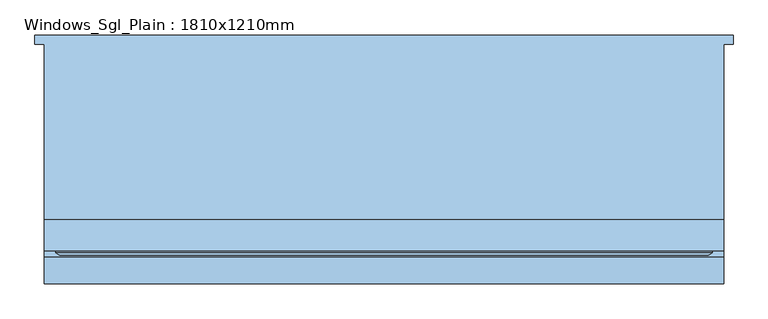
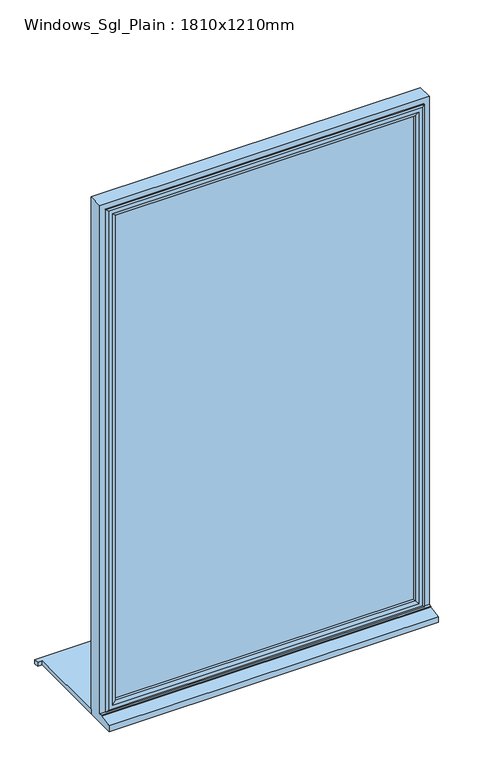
"""IFC4 building model written with IfcOpenShell, lengths in millimetres: window geometry, Windows_Sgl_Plain : 1810x1210mm."""

import ifcopenshell
import ifcopenshell.guid

model = None  # the IFC model being written
_history = None  # IfcOwnerHistory: only IFC2X3 demands one
_inside = {}  # id of a spatial element -> (the spatial element, [elements in it])
_under = {}  # id of a project, library or spatial element -> (it, [spatial elements below it])
_declared = {}  # id of a project -> (the project, [libraries it declares])
_typed = {}  # id of a type object -> (the type object, [elements of that type])
_made_of = {}  # id of a material, layer set ... -> (it, [elements and type objects made of it])


def new_model(schema):
    """Start an empty IFC model of exactly this schema.

    Asked for "IFC4X3", IfcOpenShell would pick the latest addendum, in which some entities
    have other attributes; the version numbers below select the first issue.
    IFC2X3 requires an IfcOwnerHistory on every rooted entity: one is made here for all.
    """
    global model, _history
    if schema == "IFC4X3":
        model = ifcopenshell.file(schema_version=(4, 3, 0, 0))
    else:
        model = ifcopenshell.file(schema=schema)
    _inside.clear()
    _under.clear()
    _declared.clear()
    _typed.clear()
    _made_of.clear()
    _history = None
    if model.schema == "IFC2X3":
        org = make("IfcOrganization", Name="unknown")
        user = make(
            "IfcPersonAndOrganization",
            ThePerson=make("IfcPerson", FamilyName="unknown"),
            TheOrganization=org,
        )
        app = make(
            "IfcApplication",
            ApplicationDeveloper=org,
            Version="unknown",
            ApplicationFullName="unknown",
            ApplicationIdentifier="unknown",
        )
        _history = make(
            "IfcOwnerHistory",
            OwningUser=user,
            OwningApplication=app,
            ChangeAction="ADDED",
            CreationDate=0,
        )
    return model


def make(cls, **values):
    """One entity of the class cls with the attributes given. An attribute that is None is left unset."""
    return model.create_entity(
        cls, **{name: value for name, value in values.items() if value is not None}
    )


def rooted(cls, **values):
    """An entity with a GlobalId (a new one), such as an element, a storey or a relation."""
    return make(cls, GlobalId=ifcopenshell.guid.new(), OwnerHistory=_history, **values)


def si_unit(unit_type, name, prefix=None):
    """IfcSIUnit, for example si_unit("LENGTHUNIT", "METRE", prefix="MILLI")."""
    return make("IfcSIUnit", UnitType=unit_type, Prefix=prefix, Name=name)


def assignment(units):
    """IfcUnitAssignment: the units of a project."""
    return None if units is None else make("IfcUnitAssignment", Units=units)


def point(xyz):
    """IfcCartesianPoint."""
    return None if xyz is None else make("IfcCartesianPoint", Coordinates=xyz)


def direction(xyz):
    """IfcDirection."""
    return None if xyz is None else make("IfcDirection", DirectionRatios=xyz)


def frame(location, z_axis=None, x_axis=None):
    """IfcAxis2Placement3D, a coordinate frame: its origin and axes. An axis left out is left unset."""
    return make(
        "IfcAxis2Placement3D",
        Location=point(location),
        Axis=direction(z_axis),
        RefDirection=direction(x_axis),
    )


def origin():
    """The frame at (0, 0, 0) with its axes left unset."""
    return frame((0.0, 0.0, 0.0))


def place(relative_to, where):
    """IfcLocalPlacement: puts the frame where relative to a parent placement (None: the world)."""
    return make(
        "IfcLocalPlacement", PlacementRelTo=relative_to, RelativePlacement=where
    )


def context(
    kind, dimensions, precision=None, world=None, true_north=None, identifier=None
):
    """IfcGeometricRepresentationContext, for example the 3D "Model" context."""
    return make(
        "IfcGeometricRepresentationContext",
        ContextIdentifier=identifier,
        ContextType=kind,
        CoordinateSpaceDimension=dimensions,
        Precision=precision,
        WorldCoordinateSystem=world,
        TrueNorth=true_north,
    )


def project(units=None, contexts=None):
    """IfcProject with its units and contexts."""
    return rooted(
        "IfcProject",
        Name="project",
        RepresentationContexts=contexts,
        UnitsInContext=assignment(units),
    )


def spatial(cls, under=None, at=None, **own):
    """A site, building, storey or space (cls), placed at a placement, below another one or the project."""
    s = rooted(cls, ObjectPlacement=at, **own)
    if under is not None:
        _under.setdefault(under.id(), (under, []))[1].append(s)
    return s


def polyline(points):
    """IfcPolyline through the points."""
    return make("IfcPolyline", Points=[point(p) for p in points])


def outline(outer, holes=None, kind="AREA"):
    """IfcArbitraryClosedProfileDef: a profile drawn as a closed curve; with holes, ...WithVoids."""
    if holes is None:
        return make("IfcArbitraryClosedProfileDef", ProfileType=kind, OuterCurve=outer)
    return make(
        "IfcArbitraryProfileDefWithVoids",
        ProfileType=kind,
        OuterCurve=outer,
        InnerCurves=holes,
    )


def extrude(swept, where, along, depth):
    """IfcExtrudedAreaSolid: the profile swept, set in the frame where, extruded along a direction by depth."""
    return make(
        "IfcExtrudedAreaSolid",
        SweptArea=swept,
        Position=where,
        ExtrudedDirection=direction(along),
        Depth=depth,
    )


def faces_of(points, faces, orient=None, outer=None):
    """IfcFace entities. A face is a list of loops; a loop is a list of indices into points, from 0.

    orient and outer hold one flag for each loop. By default every Orientation is true, the
    first loop of a face is its IfcFaceOuterBound and the others are IfcFaceBound.
    """
    made = []
    for i, loops in enumerate(faces):
        bounds = []
        for j, loop in enumerate(loops):
            is_outer = j == 0 if outer is None else outer[i][j]
            bounds.append(
                make(
                    "IfcFaceOuterBound" if is_outer else "IfcFaceBound",
                    Bound=make("IfcPolyLoop", Polygon=[points[k] for k in loop]),
                    Orientation=True if orient is None else orient[i][j],
                )
            )
        made.append(make("IfcFace", Bounds=bounds))
    return made


def faceted_brep(points, faces, orient=None, outer=None, voids=None):
    """IfcFacetedBrep: a solid bounded by flat faces; with voids (closed shells), ...WithVoids."""
    shared = [point(p) for p in points]
    hull = make("IfcClosedShell", CfsFaces=faces_of(shared, faces, orient, outer))
    if voids is None:
        return make("IfcFacetedBrep", Outer=hull)
    return make(
        "IfcFacetedBrepWithVoids",
        Outer=hull,
        Voids=[
            make(cls, CfsFaces=faces_of(shared, fs, o, b)) for cls, fs, o, b in voids
        ],
    )


def shape(context_of_items, identifier, shape_type, items):
    """IfcShapeRepresentation: the items that make up one representation, for example the "Body"."""
    return make(
        "IfcShapeRepresentation",
        ContextOfItems=context_of_items,
        RepresentationIdentifier=identifier,
        RepresentationType=shape_type,
        Items=items,
    )


def source(mapping_origin, context_of_items, identifier, shape_type, items):
    """IfcRepresentationMap: a shape defined once, which mapped items show again and again."""
    return make(
        "IfcRepresentationMap",
        MappingOrigin=mapping_origin,
        MappedRepresentation=shape(context_of_items, identifier, shape_type, items),
    )


def transform(
    local_origin,
    x_axis=None,
    y_axis=None,
    z_axis=None,
    scale=None,
    scale2=None,
    scale3=None,
    uniform=True,
):
    """IfcCartesianTransformationOperator3D, or its non-uniform kind. x_axis, y_axis, z_axis: its Axis1, 2, 3."""
    if uniform:
        return make(
            "IfcCartesianTransformationOperator3D",
            Axis1=direction(x_axis),
            Axis2=direction(y_axis),
            LocalOrigin=point(local_origin),
            Scale=scale,
            Axis3=direction(z_axis),
        )
    return make(
        "IfcCartesianTransformationOperator3DnonUniform",
        Axis1=direction(x_axis),
        Axis2=direction(y_axis),
        LocalOrigin=point(local_origin),
        Scale=scale,
        Axis3=direction(z_axis),
        Scale2=scale2,
        Scale3=scale3,
    )


def mapped(mapping_source, mapping_target):
    """IfcMappedItem: shows the shape of a source again, moved by a transform."""
    return make(
        "IfcMappedItem", MappingSource=mapping_source, MappingTarget=mapping_target
    )


def made_of(thing, what):
    """Note that an element or type object is made of a material, layer set ...; save() writes the relation."""
    if what is not None:
        _made_of.setdefault(what.id(), (what, []))[1].append(thing)
    return thing


def element(
    cls,
    number,
    at=None,
    inside=None,
    cuts=None,
    type_object=None,
    material=None,
    context=None,
    identifier="Body",
    shape_type=None,
    held_by="IfcProductDefinitionShape",
    body=None,
    shapes=None,
    **own,
):
    """One element of the class cls, such as IfcWall. Its Tag is "e" and its number.

    at: its placement. inside: the storey or other place that contains it. cuts: it is an
    opening in that element (IfcRelVoidsElement). A single representation is given by context,
    identifier, shape_type and body (its items); several are given by shapes. held_by: the class
    of the entity that holds the representations. save() writes the other relations.
    """
    e = rooted(cls, Tag="e%d" % number, ObjectPlacement=at, **own)
    if body is not None:
        shapes = [shape(context, identifier, shape_type, body)]
    if shapes is not None:
        e.Representation = make(held_by, Representations=shapes)
    if inside is not None:
        _inside.setdefault(inside.id(), (inside, []))[1].append(e)
    if cuts is not None:
        rooted(
            "IfcRelVoidsElement", RelatingBuildingElement=cuts, RelatedOpeningElement=e
        )
    if type_object is not None:
        _typed.setdefault(type_object.id(), (type_object, []))[1].append(e)
    return made_of(e, material)


def aggregate(whole, parts):
    """IfcRelAggregates: a whole, such as a stair, and the parts it consists of."""
    return rooted("IfcRelAggregates", RelatingObject=whole, RelatedObjects=parts)


def save(model, path):
    """Write the relations noted so far, then the file.

    IfcRelAggregates (storeys below a building ...), IfcRelContainedInSpatialStructure (elements
    in a storey), IfcRelDefinesByType, IfcRelAssociatesMaterial and IfcRelDeclares: one each for
    every whole, place, type object, material and project.
    """
    for whole, parts in _under.values():
        aggregate(whole, parts)
    for where, things in _inside.values():
        rooted(
            "IfcRelContainedInSpatialStructure",
            RelatedElements=things,
            RelatingStructure=where,
        )
    for kind, things in _typed.values():
        rooted("IfcRelDefinesByType", RelatedObjects=things, RelatingType=kind)
    for what, things in _made_of.values():
        rooted("IfcRelAssociatesMaterial", RelatedObjects=things, RelatingMaterial=what)
    for by, libraries in _declared.values():
        rooted("IfcRelDeclares", RelatingContext=by, RelatedDefinitions=libraries)
    model.write(path)


def windows_sgl_plain_1810x1210mm_a5bf54d6(model_context):
    return source(origin(), model_context, "Body", "SolidModel", [
        extrude(outline(polyline([(-930.0, 316.5434322), (930.0, 316.5434322), (930.0, 291.5434322), (905.0, 291.5434322), (905.0, -175.4565678), (-905.0, -175.4565678), (-905.0, 291.5434322), (-930.0, 291.5434322), (-930.0, 316.5434322)])), frame((0.0, 0.0, -890.0), z_axis=(0.0, 0.0, 1.0), x_axis=(1.0, 0.0, 0.0)), (0.0, 0.0, 1.0), 25.0),
        faceted_brep([(-905.0, -175.4565678, -890.0), (-905.0, -175.4565678, 2110.0), (905.0, -175.4565678, 2110.0), (905.0, -175.4565678, -890.0), (-845.0, -175.4565678, 2050.0), (-845.0, -175.4565678, -815.0), (845.0, -175.4565678, -815.0), (845.0, -175.4565678, 2050.0), (-905.0, -345.9565678, -890.0), (-905.0, -345.9565678, -856.1911153), (-905.0, -273.4565678, -845.2550324), (-905.0, -273.4565678, -840.31233), (-905.0, -258.4565678, -839.0), (-905.0, -258.4565678, 2110.0), (905.0, -258.4565678, -839.0), (905.0, -258.4565678, 2110.0), (-865.0, -258.4565678, 2070.0), (865.0, -258.4565678, 2070.0), (865.0, -258.4565678, -827.0), (-865.0, -258.4565678, -827.0), (-865.0, -193.4565678, -827.0), (-865.0, -193.4565678, 2070.0), (865.0, -193.4565678, -827.0), (865.0, -193.4565678, 2070.0), (-845.0, -193.4565678, 2050.0), (845.0, -193.4565678, 2050.0), (845.0, -193.4565678, -815.0), (-845.0, -193.4565678, -815.0), (905.0, -273.4565678, -840.31233), (905.0, -273.4565678, -845.2550324), (905.0, -345.9565678, -856.1911153), (905.0, -345.9565678, -890.0)], [[[0, 1, 2, 3], [4, 5, 6, 7]], [[0, 8, 9, 10, 11, 12, 13, 1]], [[12, 14, 15, 13], [16, 17, 18, 19]], [[19, 20, 21, 16]], [[21, 20, 22, 23], [24, 25, 26, 27]], [[24, 27, 5, 4]], [[1, 13, 15, 2]], [[16, 21, 23, 17]], [[7, 25, 24, 4]], [[14, 28, 29, 30, 31, 3, 2, 15]], [[17, 23, 22, 18]], [[7, 6, 26, 25]], [[31, 8, 0, 3]], [[30, 9, 8, 31]], [[29, 10, 9, 30]], [[28, 11, 10, 29]], [[14, 12, 11, 28]], [[20, 19, 18, 22]], [[5, 27, 26, 6]]]),
        extrude(outline(polyline([(835.0, -222.4565678), (835.0, -246.4565678), (-835.0, -246.4565678), (-835.0, -222.4565678), (835.0, -222.4565678)])), frame((0.0, 0.0, -797.0), z_axis=(0.0, 0.0, 1.0), x_axis=(1.0, 0.0, 0.0)), (0.0, 0.0, 1.0), 2837.0),
        faceted_brep([(-875.0, -258.4565678, 2080.0), (-875.0, -258.4565678, -837.0), (-875.0, -264.2300705, -837.0), (-875.0, -264.2300705, 2080.0), (-865.0, -193.4565678, 2070.0), (-865.0, -193.4565678, -827.0), (-865.0, -258.4565678, -827.0), (-865.0, -258.4565678, 2070.0), (-825.0, -207.9494677, 2030.0), (-825.0, -207.9494677, -787.0), (-835.1480377, -193.4565678, -797.1480377), (-835.1480377, -193.4565678, 2040.1480377), (-825.0, -222.4565678, 2030.0), (-825.0, -222.4565678, -787.0), (-835.0, -246.4565678, 2040.0), (-835.0, -246.4565678, -797.0), (-835.0, -222.4565678, -797.0), (-835.0, -222.4565678, 2040.0), (-825.0, -264.2300705, 2030.0), (-825.0, -264.2300705, -787.0), (-825.0, -246.4565678, -787.0), (-825.0, -246.4565678, 2030.0), (-842.4457548, -270.0035732, 2047.4457548), (-842.4457548, -270.0035732, -804.4457548), (-864.2153903, -270.0035732, -826.2153903), (-864.2153903, -270.0035732, 2069.2153903), (875.0, -258.4565678, -837.0), (875.0, -264.2300705, -837.0), (865.0, -193.4565678, -827.0), (865.0, -258.4565678, -827.0), (825.0, -207.9494677, -787.0), (835.1480377, -193.4565678, -797.1480377), (825.0, -222.4565678, -787.0), (835.0, -246.4565678, -797.0), (835.0, -222.4565678, -797.0), (825.0, -264.2300705, -787.0), (825.0, -246.4565678, -787.0), (842.4457548, -270.0035732, -804.4457548), (864.2153903, -270.0035732, -826.2153903), (875.0, -258.4565678, 2080.0), (875.0, -264.2300705, 2080.0), (865.0, -193.4565678, 2070.0), (865.0, -258.4565678, 2070.0), (825.0, -207.9494677, 2030.0), (835.1480377, -193.4565678, 2040.1480377), (825.0, -222.4565678, 2030.0), (835.0, -246.4565678, 2040.0), (835.0, -222.4565678, 2040.0), (825.0, -264.2300705, 2030.0), (825.0, -246.4565678, 2030.0), (842.4457548, -270.0035732, 2047.4457548), (864.2153903, -270.0035732, 2069.2153903)], [[[0, 1, 2, 3]], [[4, 5, 6, 7]], [[8, 9, 10, 11]], [[12, 13, 9, 8]], [[14, 15, 16, 17]], [[18, 19, 20, 21]], [[22, 23, 19, 18]], [[3, 2, 24, 25]], [[1, 26, 27, 2]], [[5, 28, 29, 6]], [[9, 30, 31, 10]], [[13, 32, 30, 9]], [[15, 33, 34, 16]], [[19, 35, 36, 20]], [[23, 37, 35, 19]], [[2, 27, 38, 24]], [[26, 39, 40, 27]], [[28, 41, 42, 29]], [[30, 43, 44, 31]], [[32, 45, 43, 30]], [[33, 46, 47, 34]], [[35, 48, 49, 36]], [[37, 50, 48, 35]], [[27, 40, 51, 38]], [[39, 0, 3, 40]], [[1, 0, 39, 26], [7, 6, 29, 42]], [[41, 4, 7, 42]], [[5, 4, 41, 28], [11, 10, 31, 44]], [[43, 8, 11, 44]], [[45, 12, 8, 43]], [[17, 16, 34, 47], [13, 12, 45, 32]], [[46, 14, 17, 47]], [[15, 14, 46, 33], [21, 20, 36, 49]], [[48, 18, 21, 49]], [[50, 22, 18, 48]], [[25, 24, 38, 51], [23, 22, 50, 37]], [[40, 3, 25, 51]]]),
    ])


if __name__ == "__main__":
    model = new_model("IFC4")
    model_context = context("Model", 3, world=origin())
    ifc_project = project(units=[si_unit("LENGTHUNIT", "METRE", prefix="MILLI")], contexts=[model_context])
    site = spatial("IfcSite", under=ifc_project)
    building = spatial("IfcBuilding", under=site)
    placement = place(None, origin())
    windows_sgl_plain_1810x1210mm_shape = windows_sgl_plain_1810x1210mm_a5bf54d6(model_context)
    element("IfcWindow", 1, ObjectType="Windows_Sgl_Plain : 1810x1210mm", at=placement, inside=building, context=model_context, shape_type="MappedRepresentation", body=[
        mapped(windows_sgl_plain_1810x1210mm_shape, transform((0.0, 0.0, 0.0), x_axis=(1.0, 0.0, 0.0), y_axis=(0.0, 1.0, 0.0), z_axis=(0.0, 0.0, 1.0))),
    ])
    save(model, "model.ifc")
